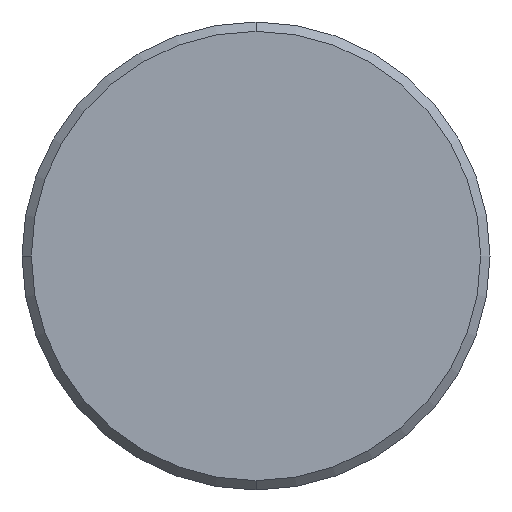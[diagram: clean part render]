
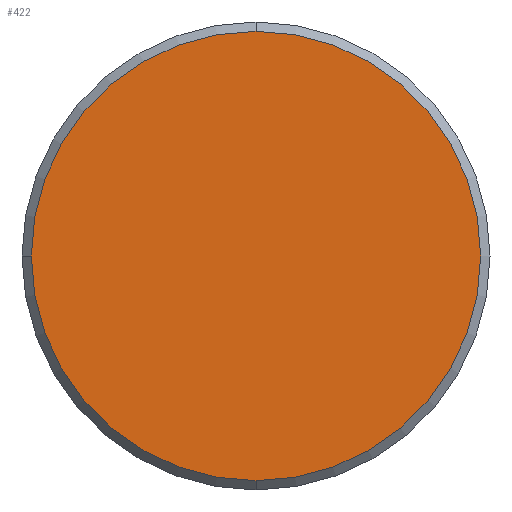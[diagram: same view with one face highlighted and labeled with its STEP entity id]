
A CAD part, left-side view. The second image highlights one B-rep face of the part: STEP entity #422.
In plain terms, the highlighted planar face has unit normal (-1, 0, 0).
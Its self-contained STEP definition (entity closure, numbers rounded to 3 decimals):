
#115 = CARTESIAN_POINT ( 'NONE',  ( 0., 0., 0. ) ) ;
#116 = DIRECTION ( 'NONE',  ( 1., 0., 0. ) ) ;
#117 = DIRECTION ( 'NONE',  ( 0., 1., 0. ) ) ;
#217 = ORIENTED_EDGE ( 'NONE', *, *, #736, .F. ) ;
#242 = EDGE_LOOP ( 'NONE', ( #317, #826, #217 ) ) ;
#317 = ORIENTED_EDGE ( 'NONE', *, *, #726, .F. ) ;
#393 = AXIS2_PLACEMENT_3D ( 'NONE', #1112, #1217, #1216 ) ;
#422 = ADVANCED_FACE ( 'NONE', ( #1078 ), #1113, .F. ) ;
#542 = CARTESIAN_POINT ( 'NONE',  ( 0., 0., 0. ) ) ;
#543 = DIRECTION ( 'NONE',  ( 1., 0., 0. ) ) ;
#544 = DIRECTION ( 'NONE',  ( 0., 0., -1. ) ) ;
#572 = CARTESIAN_POINT ( 'NONE',  ( 0., 0., 0. ) ) ;
#573 = DIRECTION ( 'NONE',  ( 1., 0., 0. ) ) ;
#574 = DIRECTION ( 'NONE',  ( 0., 1., 0. ) ) ;
#635 = CIRCLE ( 'NONE', #644, 12. ) ;
#644 = AXIS2_PLACEMENT_3D ( 'NONE', #115, #116, #117 ) ;
#699 = EDGE_CURVE ( 'NONE', #863, #820, #635, .T. ) ;
#726 = EDGE_CURVE ( 'NONE', #820, #884, #1225, .T. ) ;
#736 = EDGE_CURVE ( 'NONE', #884, #863, #1261, .T. ) ;
#820 = VERTEX_POINT ( 'NONE', #991 ) ;
#826 = ORIENTED_EDGE ( 'NONE', *, *, #699, .F. ) ;
#863 = VERTEX_POINT ( 'NONE', #1017 ) ;
#884 = VERTEX_POINT ( 'NONE', #1026 ) ;
#991 = CARTESIAN_POINT ( 'NONE',  ( 0., 0., 12. ) ) ;
#1017 = CARTESIAN_POINT ( 'NONE',  ( 0., 12., 0. ) ) ;
#1026 = CARTESIAN_POINT ( 'NONE',  ( 0., 0., -12. ) ) ;
#1078 = FACE_OUTER_BOUND ( 'NONE', #242, .T. ) ;
#1112 = CARTESIAN_POINT ( 'NONE',  ( 0., -12.65, 12.65 ) ) ;
#1113 = PLANE ( 'NONE',  #393 ) ;
#1216 = DIRECTION ( 'NONE',  ( 0., 0., -1. ) ) ;
#1217 = DIRECTION ( 'NONE',  ( 1., 0., 0. ) ) ;
#1225 = CIRCLE ( 'NONE', #1237, 12. ) ;
#1234 = AXIS2_PLACEMENT_3D ( 'NONE', #572, #573, #574 ) ;
#1237 = AXIS2_PLACEMENT_3D ( 'NONE', #542, #543, #544 ) ;
#1261 = CIRCLE ( 'NONE', #1234, 12. ) ;
